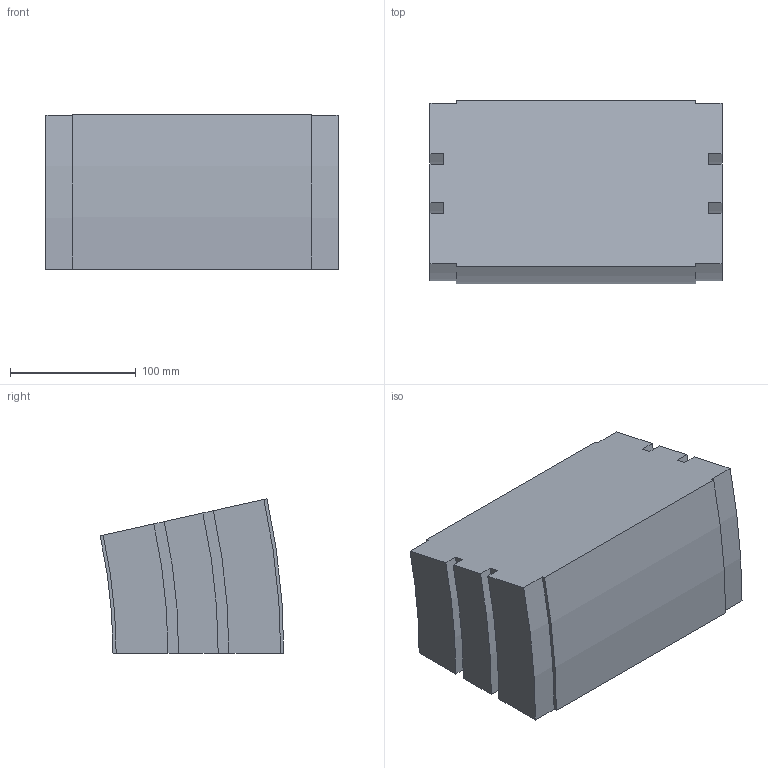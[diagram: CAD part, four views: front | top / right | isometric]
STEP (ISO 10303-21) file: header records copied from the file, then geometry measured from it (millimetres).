
FILE_DESCRIPTION (( 'STEP AP214' ), '1' );
FILE_NAME ('02.150V12.230.N FS-230-MTC-150 Bocht verticaal 12,5°.STEP', '2013-03-29T12:50:32', ( 'Gebruiker' ), ( '' ), 'SwSTEP 2.0', 'SolidWorks 2012', '' );
FILE_SCHEMA (( 'AUTOMOTIVE_DESIGN' ));
Length unit declared in the file: millimetre
Products named in the file (1): 02.150V12.230.N FS-230-MTC-150 Bocht verticaal 12,5°
Bounding box: 232.5 x 146.24 x 122.94 mm (x, y, z)
Volume: 3385502.4 mm3; surface area: 152065.5 mm2
Topology: 1 solids, 1 shells, 30 faces, 84 edges, 56 vertices
Faces by surface type: plane 16, cylinder 14
Entity records: 1010 total; most frequent: DIRECTION 174, CARTESIAN_POINT 171, ORIENTED_EDGE 168, EDGE_CURVE 84, AXIS2_PLACEMENT_3D 59, LINE 56, VECTOR 56, VERTEX_POINT 56
